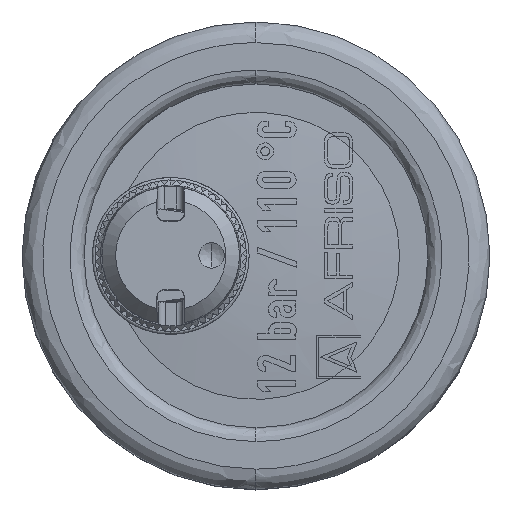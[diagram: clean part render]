
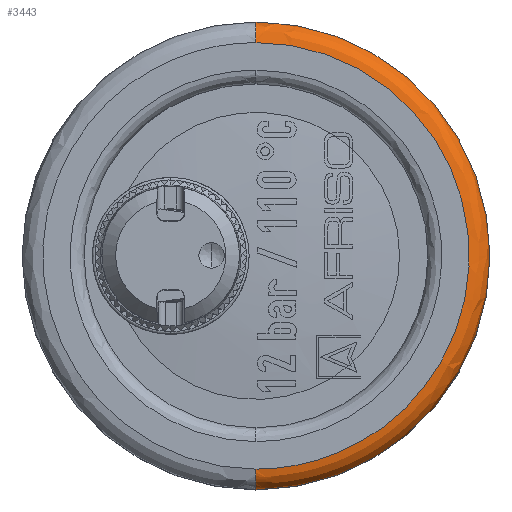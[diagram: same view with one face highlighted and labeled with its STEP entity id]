
A CAD part, top view. The second image highlights one B-rep face of the part: STEP entity #3443.
In plain terms, the highlighted free-form (B-spline) face has degree [3, 3] with [4, 4] control points.
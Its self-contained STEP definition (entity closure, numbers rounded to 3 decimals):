
#1038 = ORIENTED_EDGE ( 'NONE', *, *, #33930, .F. ) ;
#2325 = CARTESIAN_POINT ( 'NONE',  ( 216.174, 161.895, 63.949 ) ) ;
#3103 =( BOUNDED_CURVE ( )  B_SPLINE_CURVE ( 3, ( #30688, #70490, #8774, #3902 ),
 .UNSPECIFIED., .F., .F. ) 
 B_SPLINE_CURVE_WITH_KNOTS ( ( 4, 4 ),
 ( 0.25, 0.75 ),
 .UNSPECIFIED. ) 
 CURVE ( )  GEOMETRIC_REPRESENTATION_ITEM ( )  RATIONAL_B_SPLINE_CURVE ( ( 1., 0.333, 0.333, 1. ) ) 
 REPRESENTATION_ITEM ( '' )  );
#3443 = ADVANCED_FACE ( 'NONE', ( #11358 ), #25133, .T. ) ;
#3902 = CARTESIAN_POINT ( 'NONE',  ( 216.174, 161.895, 65.449 ) ) ;
#3916 = CARTESIAN_POINT ( 'NONE',  ( 216.174, 160.395, 64.827 ) ) ;
#8774 = CARTESIAN_POINT ( 'NONE',  ( 247.174, 161.895, 65.449 ) ) ;
#8905 = CARTESIAN_POINT ( 'NONE',  ( 216.174, 193.773, 65.449 ) ) ;
#11085 = CIRCLE ( 'NONE', #60036, 1.5 ) ;
#11358 = FACE_OUTER_BOUND ( 'NONE', #16839, .T. ) ;
#15201 = DIRECTION ( 'NONE',  ( 1., 0., 0. ) ) ;
#15474 = CARTESIAN_POINT ( 'NONE',  ( 216.174, 160.395, 63.949 ) ) ;
#16400 = DIRECTION ( 'NONE',  ( -1., 0., 0. ) ) ;
#16839 = EDGE_LOOP ( 'NONE', ( #59936, #34799, #1038, #79053, #21877 ) ) ;
#21183 = VERTEX_POINT ( 'NONE', #47570 ) ;
#21877 = ORIENTED_EDGE ( 'NONE', *, *, #75548, .T. ) ;
#22972 = EDGE_CURVE ( 'NONE', #36904, #65097, #11085, .T. ) ;
#24978 = CARTESIAN_POINT ( 'NONE',  ( 216.174, 192.895, 63.949 ) ) ;
#25133 =( BOUNDED_SURFACE ( )  B_SPLINE_SURFACE ( 3, 3, ( 
 ( #48755, #75508, #57373, #15474 ),
 ( #36127, #42182, #68882, #3916 ),
 ( #8905, #35701, #30702, #84098 ),
 ( #32006, #32875, #45091, #86691 ) ),
 .UNSPECIFIED., .F., .F., .F. ) 
 B_SPLINE_SURFACE_WITH_KNOTS ( ( 4, 4 ),
 ( 4, 4 ),
 ( 0., 1. ),
 ( 0., 1. ),
 .UNSPECIFIED. ) 
 GEOMETRIC_REPRESENTATION_ITEM ( )  RATIONAL_B_SPLINE_SURFACE ( (
 ( 1., 0.333, 0.333, 1.),
 ( 0.805, 0.268, 0.268, 0.805),
 ( 0.805, 0.268, 0.268, 0.805),
 ( 1., 0.333, 0.333, 1.) ) ) 
 REPRESENTATION_ITEM ( '' )  SURFACE ( )  );
#26650 = CIRCLE ( 'NONE', #47663, 1.5 ) ;
#28203 = VERTEX_POINT ( 'NONE', #83629 ) ;
#30688 = CARTESIAN_POINT ( 'NONE',  ( 216.174, 192.895, 65.449 ) ) ;
#30702 = CARTESIAN_POINT ( 'NONE',  ( 248.931, 161.016, 65.449 ) ) ;
#32006 = CARTESIAN_POINT ( 'NONE',  ( 216.174, 192.895, 65.449 ) ) ;
#32875 = CARTESIAN_POINT ( 'NONE',  ( 247.174, 192.895, 65.449 ) ) ;
#33930 = EDGE_CURVE ( 'NONE', #28203, #21183, #59139, .T. ) ;
#34158 = CARTESIAN_POINT ( 'NONE',  ( 216.174, 177.395, 63.949 ) ) ;
#34799 = ORIENTED_EDGE ( 'NONE', *, *, #74181, .F. ) ;
#35199 = VERTEX_POINT ( 'NONE', #43930 ) ;
#35701 = CARTESIAN_POINT ( 'NONE',  ( 248.931, 193.773, 65.449 ) ) ;
#36127 = CARTESIAN_POINT ( 'NONE',  ( 216.174, 194.395, 64.827 ) ) ;
#36904 = VERTEX_POINT ( 'NONE', #56404 ) ;
#42182 = CARTESIAN_POINT ( 'NONE',  ( 250.174, 194.395, 64.827 ) ) ;
#43930 = CARTESIAN_POINT ( 'NONE',  ( 216.174, 192.895, 65.449 ) ) ;
#45091 = CARTESIAN_POINT ( 'NONE',  ( 247.174, 161.895, 65.449 ) ) ;
#46411 = CARTESIAN_POINT ( 'NONE',  ( 216.174, 177.395, 63.949 ) ) ;
#47570 = CARTESIAN_POINT ( 'NONE',  ( 233.174, 177.395, 63.949 ) ) ;
#47663 = AXIS2_PLACEMENT_3D ( 'NONE', #24978, #52106, #73122 ) ;
#48479 = DIRECTION ( 'NONE',  ( 0., 0., -1. ) ) ;
#48755 = CARTESIAN_POINT ( 'NONE',  ( 216.174, 194.395, 63.949 ) ) ;
#52106 = DIRECTION ( 'NONE',  ( 1., 0., 0. ) ) ;
#56404 = CARTESIAN_POINT ( 'NONE',  ( 216.174, 160.395, 63.949 ) ) ;
#57373 = CARTESIAN_POINT ( 'NONE',  ( 250.174, 160.395, 63.949 ) ) ;
#59139 = CIRCLE ( 'NONE', #82926, 17. ) ;
#59936 = ORIENTED_EDGE ( 'NONE', *, *, #22972, .F. ) ;
#60036 = AXIS2_PLACEMENT_3D ( 'NONE', #2325, #16400, #69755 ) ;
#65097 = VERTEX_POINT ( 'NONE', #81746 ) ;
#68220 = DIRECTION ( 'NONE',  ( 1., 0., 0. ) ) ;
#68882 = CARTESIAN_POINT ( 'NONE',  ( 250.174, 160.395, 64.827 ) ) ;
#69755 = DIRECTION ( 'NONE',  ( 0., -1., 0. ) ) ;
#70490 = CARTESIAN_POINT ( 'NONE',  ( 247.174, 192.895, 65.449 ) ) ;
#73122 = DIRECTION ( 'NONE',  ( 0., 1., 0. ) ) ;
#74181 = EDGE_CURVE ( 'NONE', #21183, #36904, #75772, .T. ) ;
#74415 = AXIS2_PLACEMENT_3D ( 'NONE', #46411, #48479, #15201 ) ;
#74863 = DIRECTION ( 'NONE',  ( 0., 0., -1. ) ) ;
#75508 = CARTESIAN_POINT ( 'NONE',  ( 250.174, 194.395, 63.949 ) ) ;
#75548 = EDGE_CURVE ( 'NONE', #35199, #65097, #3103, .T. ) ;
#75772 = CIRCLE ( 'NONE', #74415, 17. ) ;
#79053 = ORIENTED_EDGE ( 'NONE', *, *, #85450, .T. ) ;
#81746 = CARTESIAN_POINT ( 'NONE',  ( 216.174, 161.895, 65.449 ) ) ;
#82926 = AXIS2_PLACEMENT_3D ( 'NONE', #34158, #74863, #68220 ) ;
#83629 = CARTESIAN_POINT ( 'NONE',  ( 216.174, 194.395, 63.949 ) ) ;
#84098 = CARTESIAN_POINT ( 'NONE',  ( 216.174, 161.016, 65.449 ) ) ;
#85450 = EDGE_CURVE ( 'NONE', #28203, #35199, #26650, .T. ) ;
#86691 = CARTESIAN_POINT ( 'NONE',  ( 216.174, 161.895, 65.449 ) ) ;
